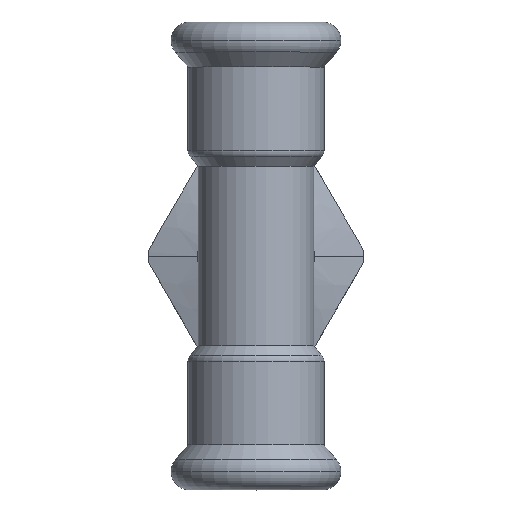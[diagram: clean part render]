
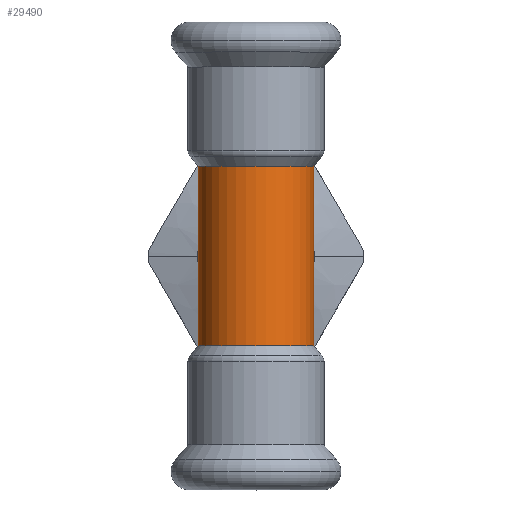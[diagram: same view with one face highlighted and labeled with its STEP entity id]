
A CAD part, top view. The second image highlights one B-rep face of the part: STEP entity #29490.
In plain terms, the highlighted cylindrical face has radius 9 mm (diameter 18 mm), a partial arc.
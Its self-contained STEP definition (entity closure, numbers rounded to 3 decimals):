
#7840=CARTESIAN_POINT('',(-105.193,59.409,
0.));
#7850=VERTEX_POINT('',#7840);
#8010=CARTESIAN_POINT('',(-87.193,59.409,
0.));
#8020=VERTEX_POINT('',#8010);
#16980=CARTESIAN_POINT('',(-96.193,59.409,
-14.));
#16990=DIRECTION('',(0.,0.,-1.));
#17000=DIRECTION('',(-1.,0.,0.));
#17010=AXIS2_PLACEMENT_3D('',#16980,#16990,#17000);
#17020=CYLINDRICAL_SURFACE('',#17010,9.);
#29090=CARTESIAN_POINT('',(-105.193,59.409,
-14.));
#29100=DIRECTION('',(0.,0.,-1.));
#29110=VECTOR('',#29100,1.);
#29120=LINE('',#29090,#29110);
#29130=CARTESIAN_POINT('',(-105.193,59.409,
14.));
#29140=VERTEX_POINT('',#29130);
#29150=EDGE_CURVE('',#29140,#7850,#29120,.T.);
#29160=ORIENTED_EDGE('',*,*,#29150,.F.);
#29170=CARTESIAN_POINT('',(-105.193,59.409,
-14.));
#29180=VERTEX_POINT('',#29170);
#29190=EDGE_CURVE('',#7850,#29180,#29120,.T.);
#29200=ORIENTED_EDGE('',*,*,#29190,.F.);
#29210=CARTESIAN_POINT('',(-96.193,59.409,
-14.));
#29220=DIRECTION('',(0.,0.,-1.));
#29230=DIRECTION('',(1.,0.,0.));
#29240=AXIS2_PLACEMENT_3D('',#29210,#29220,#29230);
#29250=CIRCLE('',#29240,9.);
#29260=CARTESIAN_POINT('',(-87.193,59.409,
-14.));
#29270=VERTEX_POINT('',#29260);
#29280=EDGE_CURVE('',#29180,#29270,#29250,.T.);
#29290=ORIENTED_EDGE('',*,*,#29280,.F.);
#29300=CARTESIAN_POINT('',(-87.193,59.409,
-14.));
#29310=DIRECTION('',(0.,0.,-1.));
#29320=VECTOR('',#29310,1.);
#29330=LINE('',#29300,#29320);
#29340=EDGE_CURVE('',#8020,#29270,#29330,.T.);
#29350=ORIENTED_EDGE('',*,*,#29340,.T.);
#29360=CARTESIAN_POINT('',(-87.193,59.409,
14.));
#29370=VERTEX_POINT('',#29360);
#29380=EDGE_CURVE('',#29370,#8020,#29330,.T.);
#29390=ORIENTED_EDGE('',*,*,#29380,.T.);
#29400=CARTESIAN_POINT('',(-96.193,59.409,
14.));
#29410=DIRECTION('',(0.,0.,-1.));
#29420=DIRECTION('',(-1.,0.,0.));
#29430=AXIS2_PLACEMENT_3D('',#29400,#29410,#29420);
#29440=CIRCLE('',#29430,9.);
#29450=EDGE_CURVE('',#29140,#29370,#29440,.T.);
#29460=ORIENTED_EDGE('',*,*,#29450,.T.);
#29470=EDGE_LOOP('',(#29460,#29390,#29350,#29290,#29200,#29160));
#29480=FACE_OUTER_BOUND('',#29470,.T.);
#29490=ADVANCED_FACE('',(#29480),#17020,.T.);
